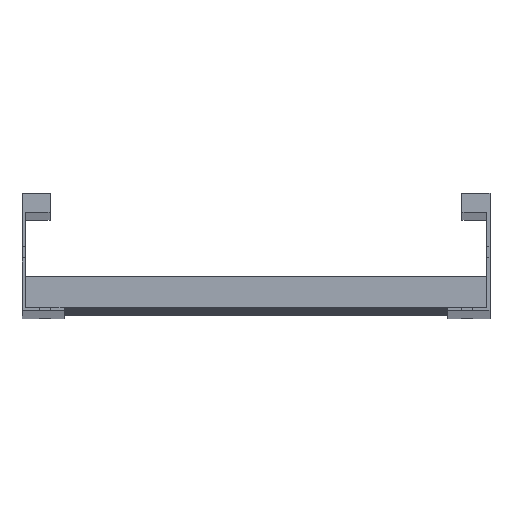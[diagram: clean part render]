
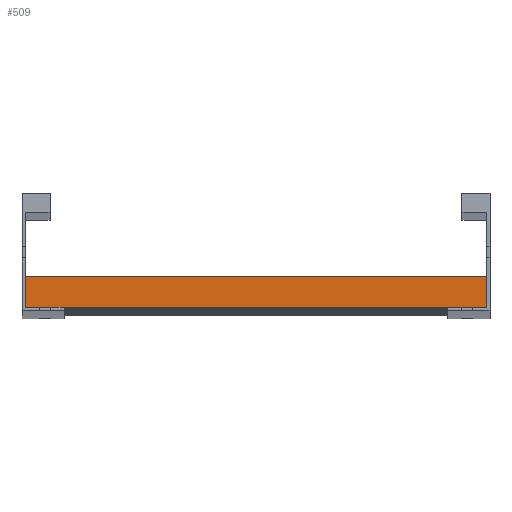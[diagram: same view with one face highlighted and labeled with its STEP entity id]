
A CAD part, top view. The second image highlights one B-rep face of the part: STEP entity #509.
In plain terms, the highlighted planar face has unit normal (0, 0, 1).
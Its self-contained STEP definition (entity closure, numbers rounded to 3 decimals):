
#2 = ORIENTED_EDGE ( 'NONE', *, *, #1615, .T. ) ;
#4 = CARTESIAN_POINT ( 'NONE',  ( 148., 20., 20.25 ) ) ;
#101 = EDGE_CURVE ( 'NONE', #461, #594, #1550, .T. ) ;
#134 = PLANE ( 'NONE',  #1157 ) ;
#142 = CARTESIAN_POINT ( 'NONE',  ( 148., 20., 20.25 ) ) ;
#152 = ORIENTED_EDGE ( 'NONE', *, *, #588, .F. ) ;
#242 = EDGE_CURVE ( 'NONE', #277, #594, #816, .T. ) ;
#244 = FACE_OUTER_BOUND ( 'NONE', #670, .T. ) ;
#277 = VERTEX_POINT ( 'NONE', #1600 ) ;
#311 = ORIENTED_EDGE ( 'NONE', *, *, #242, .F. ) ;
#328 = CARTESIAN_POINT ( 'NONE',  ( -148., 20., 20.25 ) ) ;
#372 = LINE ( 'NONE', #142, #680 ) ;
#388 = DIRECTION ( 'NONE',  ( 0., 1., 0. ) ) ;
#409 = LINE ( 'NONE', #1225, #547 ) ;
#461 = VERTEX_POINT ( 'NONE', #893 ) ;
#509 = ADVANCED_FACE ( 'NONE', ( #244 ), #134, .F. ) ;
#547 = VECTOR ( 'NONE', #1343, 1000. ) ;
#573 = VECTOR ( 'NONE', #873, 1000. ) ;
#588 = EDGE_CURVE ( 'NONE', #1497, #277, #372, .T. ) ;
#594 = VERTEX_POINT ( 'NONE', #1059 ) ;
#659 = CARTESIAN_POINT ( 'NONE',  ( 148., 20., 20.25 ) ) ;
#670 = EDGE_LOOP ( 'NONE', ( #674, #311, #152, #2 ) ) ;
#674 = ORIENTED_EDGE ( 'NONE', *, *, #101, .T. ) ;
#680 = VECTOR ( 'NONE', #813, 1000. ) ;
#813 = DIRECTION ( 'NONE',  ( 0., -1., 0. ) ) ;
#816 = LINE ( 'NONE', #1301, #1047 ) ;
#873 = DIRECTION ( 'NONE',  ( 0., -1., 0. ) ) ;
#893 = CARTESIAN_POINT ( 'NONE',  ( -148., 20., 20.25 ) ) ;
#1047 = VECTOR ( 'NONE', #1444, 1000. ) ;
#1059 = CARTESIAN_POINT ( 'NONE',  ( -148., 0., 20.25 ) ) ;
#1157 = AXIS2_PLACEMENT_3D ( 'NONE', #659, #1191, #388 ) ;
#1191 = DIRECTION ( 'NONE',  ( 0., 0., -1. ) ) ;
#1225 = CARTESIAN_POINT ( 'NONE',  ( 148., 20., 20.25 ) ) ;
#1301 = CARTESIAN_POINT ( 'NONE',  ( 148., 0., 20.25 ) ) ;
#1343 = DIRECTION ( 'NONE',  ( -1., 0., 0. ) ) ;
#1444 = DIRECTION ( 'NONE',  ( -1., 0., 0. ) ) ;
#1497 = VERTEX_POINT ( 'NONE', #4 ) ;
#1550 = LINE ( 'NONE', #328, #573 ) ;
#1600 = CARTESIAN_POINT ( 'NONE',  ( 148., 0., 20.25 ) ) ;
#1615 = EDGE_CURVE ( 'NONE', #1497, #461, #409, .T. ) ;
